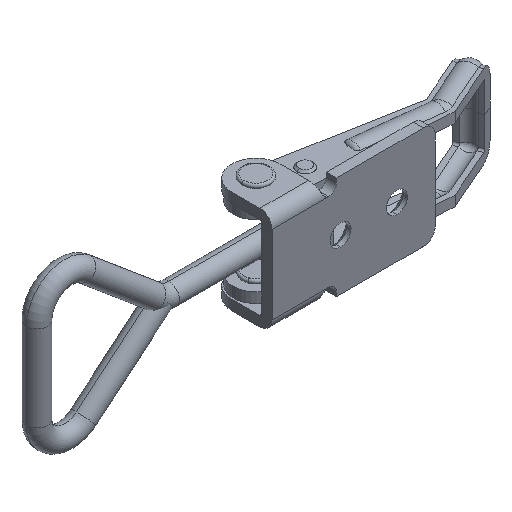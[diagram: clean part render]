
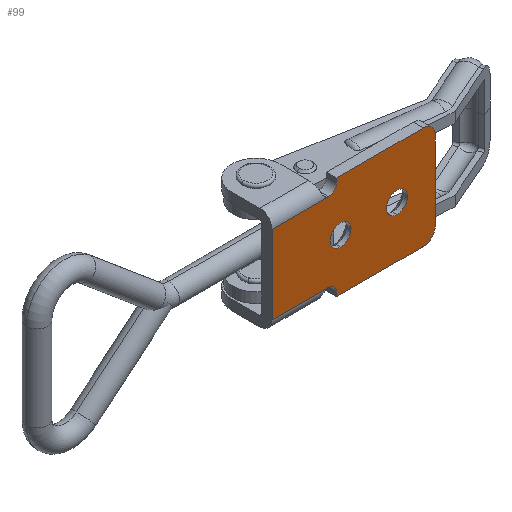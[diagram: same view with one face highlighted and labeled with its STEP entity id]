
A CAD part, isometric view. The second image highlights one B-rep face of the part: STEP entity #99.
In plain terms, the highlighted planar face has unit normal (0, -1, 0).
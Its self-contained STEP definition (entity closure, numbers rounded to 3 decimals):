
#99 = ADVANCED_FACE ( 'NONE', ( #5071, #5072, #5073 ), #1749, .F. ) ;
#129 = EDGE_CURVE ( 'NONE', #1104, #1098, #230, .T. ) ;
#135 = EDGE_CURVE ( 'NONE', #1095, #772, #387, .T. ) ;
#150 = EDGE_CURVE ( 'NONE', #762, #961, #349, .T. ) ;
#153 = EDGE_CURVE ( 'NONE', #760, #762, #5108, .T. ) ;
#156 = EDGE_CURVE ( 'NONE', #958, #760, #5111, .T. ) ;
#159 = EDGE_CURVE ( 'NONE', #956, #958, #402, .T. ) ;
#230 = CIRCLE ( 'NONE', #294, 2.6 ) ;
#294 = AXIS2_PLACEMENT_3D ( 'NONE', #4359, #4358, #4357 ) ;
#316 = AXIS2_PLACEMENT_3D ( 'NONE', #4343, #4342, #4341 ) ;
#342 = VECTOR ( 'NONE', #4260, 1000. ) ;
#349 = CIRCLE ( 'NONE', #359, 2. ) ;
#353 = VECTOR ( 'NONE', #4266, 1000. ) ;
#359 = AXIS2_PLACEMENT_3D ( 'NONE', #4274, #4273, #4272 ) ;
#374 = AXIS2_PLACEMENT_3D ( 'NONE', #4254, #4253, #4252 ) ;
#387 = CIRCLE ( 'NONE', #316, 2.6 ) ;
#402 = CIRCLE ( 'NONE', #374, 3. ) ;
#516 = AXIS2_PLACEMENT_3D ( 'NONE', #1748, #1747, #1746 ) ;
#682 = ORIENTED_EDGE ( 'NONE', *, *, #4771, .F. ) ;
#760 = VERTEX_POINT ( 'NONE', #3214 ) ;
#762 = VERTEX_POINT ( 'NONE', #3212 ) ;
#763 = VERTEX_POINT ( 'NONE', #3211 ) ;
#765 = VERTEX_POINT ( 'NONE', #3209 ) ;
#772 = VERTEX_POINT ( 'NONE', #3202 ) ;
#776 = VERTEX_POINT ( 'NONE', #3198 ) ;
#778 = VERTEX_POINT ( 'NONE', #3196 ) ;
#939 = VERTEX_POINT ( 'NONE', #3044 ) ;
#940 = VERTEX_POINT ( 'NONE', #3043 ) ;
#952 = VERTEX_POINT ( 'NONE', #3029 ) ;
#956 = VERTEX_POINT ( 'NONE', #3024 ) ;
#958 = VERTEX_POINT ( 'NONE', #3022 ) ;
#961 = VERTEX_POINT ( 'NONE', #3018 ) ;
#1095 = VERTEX_POINT ( 'NONE', #3013 ) ;
#1098 = VERTEX_POINT ( 'NONE', #3009 ) ;
#1104 = VERTEX_POINT ( 'NONE', #3002 ) ;
#1170 = CIRCLE ( 'NONE', #1391, 2. ) ;
#1222 = VECTOR ( 'NONE', #3835, 1000. ) ;
#1314 = VECTOR ( 'NONE', #3814, 1000. ) ;
#1324 = CIRCLE ( 'NONE', #1327, 3. ) ;
#1327 = AXIS2_PLACEMENT_3D ( 'NONE', #4042, #4036, #4034 ) ;
#1391 = AXIS2_PLACEMENT_3D ( 'NONE', #2323, #2322, #2321 ) ;
#1412 = VECTOR ( 'NONE', #2272, 1000. ) ;
#1414 = CIRCLE ( 'NONE', #1420, 2.6 ) ;
#1420 = AXIS2_PLACEMENT_3D ( 'NONE', #2209, #2208, #2206 ) ;
#1425 = VECTOR ( 'NONE', #2245, 1000. ) ;
#1460 = VECTOR ( 'NONE', #2362, 1000. ) ;
#1475 = AXIS2_PLACEMENT_3D ( 'NONE', #2401, #2400, #2399 ) ;
#1496 = CIRCLE ( 'NONE', #1475, 2.6 ) ;
#1534 = VECTOR ( 'NONE', #2397, 1000. ) ;
#1746 = DIRECTION ( 'NONE',  ( 0., 0., 1. ) ) ;
#1747 = DIRECTION ( 'NONE',  ( 0., 1., 0. ) ) ;
#1748 = CARTESIAN_POINT ( 'NONE',  ( 37.5, 0., 9.75 ) ) ;
#1749 = PLANE ( 'NONE',  #516 ) ;
#1814 = LINE ( 'NONE', #3836, #1222 ) ;
#1818 = LINE ( 'NONE', #3818, #1314 ) ;
#2206 = DIRECTION ( 'NONE',  ( 0., 0., 1. ) ) ;
#2208 = DIRECTION ( 'NONE',  ( 0., 1., 0. ) ) ;
#2209 = CARTESIAN_POINT ( 'NONE',  ( 17., 0., 0. ) ) ;
#2245 = DIRECTION ( 'NONE',  ( -1., 0., 0. ) ) ;
#2246 = CARTESIAN_POINT ( 'NONE',  ( 0., 0., 9.75 ) ) ;
#2272 = DIRECTION ( 'NONE',  ( 0., 0., -1. ) ) ;
#2273 = CARTESIAN_POINT ( 'NONE',  ( 40.5, 0., -9.75 ) ) ;
#2321 = DIRECTION ( 'NONE',  ( 0., 0., -1. ) ) ;
#2322 = DIRECTION ( 'NONE',  ( 0., -1., 0. ) ) ;
#2323 = CARTESIAN_POINT ( 'NONE',  ( 14., 0., 11.75 ) ) ;
#2362 = DIRECTION ( 'NONE',  ( 0., 0., 1. ) ) ;
#2363 = CARTESIAN_POINT ( 'NONE',  ( 0., 0., 12.75 ) ) ;
#2397 = DIRECTION ( 'NONE',  ( 1., 0., 0. ) ) ;
#2398 = CARTESIAN_POINT ( 'NONE',  ( 12., 0., -9.75 ) ) ;
#2399 = DIRECTION ( 'NONE',  ( 0., 0., 1. ) ) ;
#2400 = DIRECTION ( 'NONE',  ( 0., 1., 0. ) ) ;
#2401 = CARTESIAN_POINT ( 'NONE',  ( 31., 0., 0. ) ) ;
#3002 = CARTESIAN_POINT ( 'NONE',  ( 17., 0., -2.6 ) ) ;
#3009 = CARTESIAN_POINT ( 'NONE',  ( 17., 0., 2.6 ) ) ;
#3013 = CARTESIAN_POINT ( 'NONE',  ( 31., 0., -2.6 ) ) ;
#3018 = CARTESIAN_POINT ( 'NONE',  ( 14., 0., -9.75 ) ) ;
#3022 = CARTESIAN_POINT ( 'NONE',  ( 37.5, 0., -12.75 ) ) ;
#3024 = CARTESIAN_POINT ( 'NONE',  ( 40.5, 0., -9.75 ) ) ;
#3029 = CARTESIAN_POINT ( 'NONE',  ( 14., 0., 9.75 ) ) ;
#3043 = CARTESIAN_POINT ( 'NONE',  ( 0., 0., -9.75 ) ) ;
#3044 = CARTESIAN_POINT ( 'NONE',  ( 0., 0., 9.75 ) ) ;
#3196 = CARTESIAN_POINT ( 'NONE',  ( 40.5, 0., 9.75 ) ) ;
#3198 = CARTESIAN_POINT ( 'NONE',  ( 37.5, 0., 12.75 ) ) ;
#3202 = CARTESIAN_POINT ( 'NONE',  ( 31., 0., 2.6 ) ) ;
#3209 = CARTESIAN_POINT ( 'NONE',  ( 16., 0., 12.75 ) ) ;
#3211 = CARTESIAN_POINT ( 'NONE',  ( 16., 0., 11.75 ) ) ;
#3212 = CARTESIAN_POINT ( 'NONE',  ( 16., 0., -11.75 ) ) ;
#3214 = CARTESIAN_POINT ( 'NONE',  ( 16., 0., -12.75 ) ) ;
#3221 = ORIENTED_EDGE ( 'NONE', *, *, #4776, .F. ) ;
#3222 = ORIENTED_EDGE ( 'NONE', *, *, #4773, .F. ) ;
#3324 = ORIENTED_EDGE ( 'NONE', *, *, #4707, .T. ) ;
#3325 = ORIENTED_EDGE ( 'NONE', *, *, #153, .F. ) ;
#3326 = ORIENTED_EDGE ( 'NONE', *, *, #150, .F. ) ;
#3327 = ORIENTED_EDGE ( 'NONE', *, *, #156, .F. ) ;
#3328 = ORIENTED_EDGE ( 'NONE', *, *, #4708, .T. ) ;
#3329 = ORIENTED_EDGE ( 'NONE', *, *, #4735, .T. ) ;
#3330 = ORIENTED_EDGE ( 'NONE', *, *, #135, .T. ) ;
#3331 = ORIENTED_EDGE ( 'NONE', *, *, #4717, .F. ) ;
#3332 = ORIENTED_EDGE ( 'NONE', *, *, #129, .T. ) ;
#3333 = ORIENTED_EDGE ( 'NONE', *, *, #4729, .F. ) ;
#3334 = ORIENTED_EDGE ( 'NONE', *, *, #4745, .T. ) ;
#3336 = ORIENTED_EDGE ( 'NONE', *, *, #4733, .F. ) ;
#3337 = ORIENTED_EDGE ( 'NONE', *, *, #159, .F. ) ;
#3814 = DIRECTION ( 'NONE',  ( 1., 0., 0. ) ) ;
#3818 = CARTESIAN_POINT ( 'NONE',  ( 16., 0., 12.75 ) ) ;
#3835 = DIRECTION ( 'NONE',  ( 0., 0., 1. ) ) ;
#3836 = CARTESIAN_POINT ( 'NONE',  ( 16., 0., 11.75 ) ) ;
#4034 = DIRECTION ( 'NONE',  ( 0., 0., 1. ) ) ;
#4036 = DIRECTION ( 'NONE',  ( 0., 1., 0. ) ) ;
#4042 = CARTESIAN_POINT ( 'NONE',  ( 37.5, 0., 9.75 ) ) ;
#4252 = DIRECTION ( 'NONE',  ( 0., 0., -1. ) ) ;
#4253 = DIRECTION ( 'NONE',  ( 0., 1., 0. ) ) ;
#4254 = CARTESIAN_POINT ( 'NONE',  ( 37.5, 0., -9.75 ) ) ;
#4260 = DIRECTION ( 'NONE',  ( -1., 0., 0. ) ) ;
#4261 = CARTESIAN_POINT ( 'NONE',  ( 16., 0., -12.75 ) ) ;
#4266 = DIRECTION ( 'NONE',  ( 0., 0., 1. ) ) ;
#4267 = CARTESIAN_POINT ( 'NONE',  ( 16., 0., -11.75 ) ) ;
#4272 = DIRECTION ( 'NONE',  ( 0., 0., 1. ) ) ;
#4273 = DIRECTION ( 'NONE',  ( 0., -1., 0. ) ) ;
#4274 = CARTESIAN_POINT ( 'NONE',  ( 14., 0., -11.75 ) ) ;
#4341 = DIRECTION ( 'NONE',  ( 0., 0., 1. ) ) ;
#4342 = DIRECTION ( 'NONE',  ( 0., 1., 0. ) ) ;
#4343 = CARTESIAN_POINT ( 'NONE',  ( 31., 0., 0. ) ) ;
#4357 = DIRECTION ( 'NONE',  ( 0., 0., 1. ) ) ;
#4358 = DIRECTION ( 'NONE',  ( 0., 1., 0. ) ) ;
#4359 = CARTESIAN_POINT ( 'NONE',  ( 17., 0., 0. ) ) ;
#4707 = EDGE_CURVE ( 'NONE', #772, #1095, #1496, .T. ) ;
#4708 = EDGE_CURVE ( 'NONE', #940, #961, #5331, .T. ) ;
#4717 = EDGE_CURVE ( 'NONE', #940, #939, #5343, .T. ) ;
#4729 = EDGE_CURVE ( 'NONE', #952, #763, #1170, .T. ) ;
#4733 = EDGE_CURVE ( 'NONE', #778, #956, #5357, .T. ) ;
#4735 = EDGE_CURVE ( 'NONE', #952, #939, #5358, .T. ) ;
#4745 = EDGE_CURVE ( 'NONE', #1098, #1104, #1414, .T. ) ;
#4771 = EDGE_CURVE ( 'NONE', #776, #778, #1324, .T. ) ;
#4773 = EDGE_CURVE ( 'NONE', #763, #765, #1814, .T. ) ;
#4776 = EDGE_CURVE ( 'NONE', #765, #776, #1818, .T. ) ;
#4793 = EDGE_LOOP ( 'NONE', ( #3334, #3332 ) ) ;
#4797 = EDGE_LOOP ( 'NONE', ( #3324, #3330 ) ) ;
#4798 = EDGE_LOOP ( 'NONE', ( #3333, #3329, #3331, #3328, #3326, #3325, #3327, #3337, #3336, #682, #3221, #3222 ) ) ;
#5071 = FACE_BOUND ( 'NONE', #4793, .T. ) ;
#5072 = FACE_BOUND ( 'NONE', #4797, .T. ) ;
#5073 = FACE_OUTER_BOUND ( 'NONE', #4798, .T. ) ;
#5108 = LINE ( 'NONE', #4267, #353 ) ;
#5111 = LINE ( 'NONE', #4261, #342 ) ;
#5331 = LINE ( 'NONE', #2398, #1534 ) ;
#5343 = LINE ( 'NONE', #2363, #1460 ) ;
#5357 = LINE ( 'NONE', #2273, #1412 ) ;
#5358 = LINE ( 'NONE', #2246, #1425 ) ;
